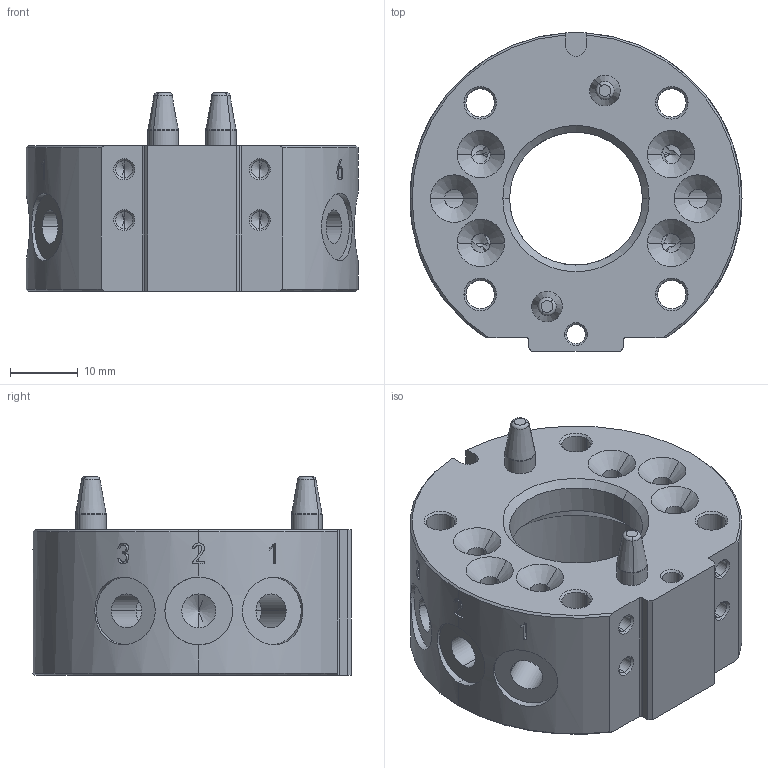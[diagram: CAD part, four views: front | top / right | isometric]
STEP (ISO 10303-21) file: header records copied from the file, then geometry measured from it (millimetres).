
FILE_DESCRIPTION (( 'STEP AP203' ), '1' );
FILE_NAME ('QCA-05G.STEP', '2024-03-19T03:04:55', ( '微软用户' ), ( '微软中国' ), 'SwSTEP 2.0', 'SolidWorks 2018', '' );
FILE_SCHEMA (( 'CONFIG_CONTROL_DESIGN' ));
Length unit declared in the file: millimetre
Products named in the file (1): QCA-05G
Bounding box: 49 x 47 x 29.3 mm (x, y, z)
Volume: 26661 mm3; surface area: 11175.2 mm2
Topology: 1 solids, 1 shells, 317 faces, 815 edges, 491 vertices
Faces by surface type: cone 98, plane 98, cylinder 92, bspline 17, torus 12
Entity records: 12191 total; most frequent: CARTESIAN_POINT 4610, ORIENTED_EDGE 1566, DIRECTION 1559, EDGE_CURVE 783, AXIS2_PLACEMENT_3D 594, VERTEX_POINT 491, LINE 371, VECTOR 371
